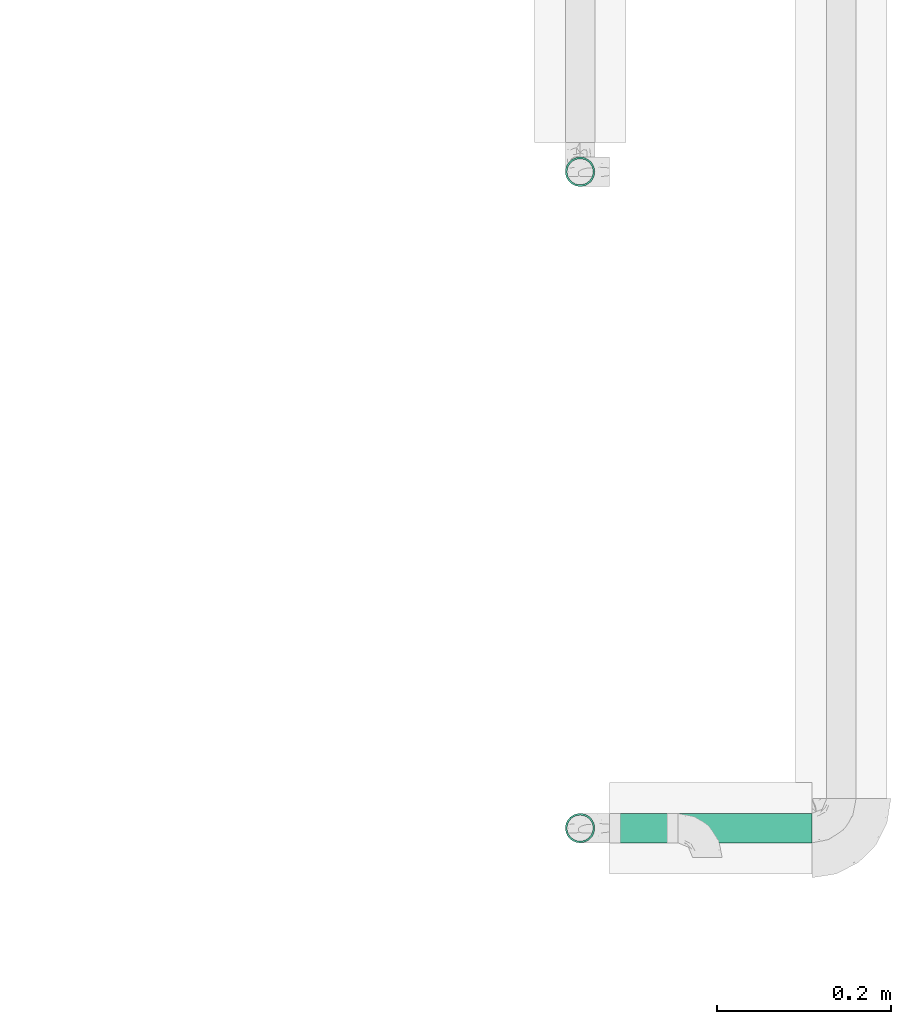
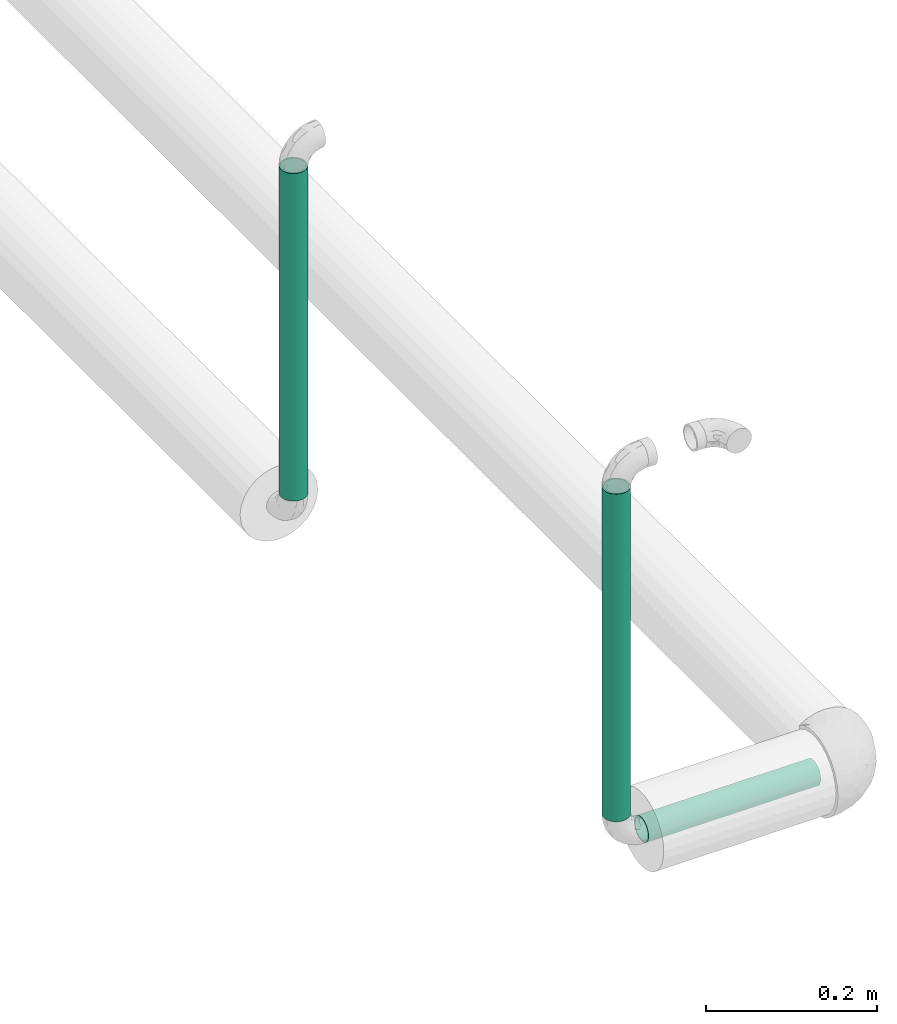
# One storey, part 7 of 17: 3 flow segments.
"""IFC2X3 building model written with IfcOpenShell, lengths in millimetres."""

from ifc_helpers import new_model, entity, si_unit, converted_unit, derived_unit, direction, frame, origin_with_axes, origin_2d_with_axis, place, context, subcontext, project, spatial, hollow_circle, extrude, source, transform, mapped, type_object, element, save


model = new_model("IFC2X3")

# Units and contexts
model_context = context("Model", 3, precision=0.01, world=frame((0.0, 4.29681676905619e-09, 0.0)), true_north=direction((4.01073788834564e-13, 1.0)))
plan_context = context("Plan", 3, precision=0.01, world=frame((0.0, 4.29681676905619e-09, 0.0)), true_north=direction((4.01073788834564e-13, 1.0)))
body_context = subcontext(model_context, "Body", "Model", "MODEL_VIEW")
ifc_project = project(units=[converted_unit("PLANEANGLEUNIT", "DEGREE", entity("IfcPositiveLengthMeasure", 0.0174532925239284), si_unit("PLANEANGLEUNIT", "RADIAN"), dimensions=[0, 0, 0, 0, 0, 0, 0]), si_unit("AREAUNIT", "SQUARE_METRE"), si_unit("LENGTHUNIT", "METRE", prefix="MILLI"), si_unit("MASSUNIT", "GRAM", prefix="KILO"), si_unit("POWERUNIT", "WATT"), si_unit("PRESSUREUNIT", "PASCAL", prefix="KILO"), si_unit("FORCEUNIT", "NEWTON", prefix="KILO"), si_unit("ELECTRICVOLTAGEUNIT", "VOLT"), si_unit("ELECTRICCURRENTUNIT", "AMPERE"), si_unit("THERMODYNAMICTEMPERATUREUNIT", "DEGREE_CELSIUS"), si_unit("TIMEUNIT", "SECOND"), si_unit("VOLUMEUNIT", "CUBIC_METRE"), derived_unit("LINEARVELOCITYUNIT", [(si_unit("LENGTHUNIT", "METRE"), 1), (si_unit("TIMEUNIT", "SECOND"), -1)]), derived_unit("VOLUMETRICFLOWRATEUNIT", [(si_unit("VOLUMEUNIT", "CUBIC_METRE"), 1), (si_unit("TIMEUNIT", "SECOND"), -1)]), derived_unit("THERMALTRANSMITTANCEUNIT", [(si_unit("POWERUNIT", "WATT"), 1), (si_unit("THERMODYNAMICTEMPERATUREUNIT", "KELVIN"), -1), (si_unit("AREAUNIT", "SQUARE_METRE"), -1)]), derived_unit("SOUNDPRESSUREUNIT", [(si_unit("PRESSUREUNIT", "PASCAL"), 1)])], contexts=[model_context, plan_context])

# Site, building, storey
site_placement = place(None, frame((0.0, -4.29681676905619e-09, 0.0), z_axis=(0.0, 0.0, 1.0), x_axis=(1.0, 0.0, 0.0)))
site = spatial("IfcSite", under=ifc_project, at=site_placement, Name="ENGM", CompositionType="ELEMENT")
building_placement = place(site_placement, frame((0.0, 4.29681676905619e-09, 0.0), z_axis=(0.0, 0.0, 1.0), x_axis=(1.0, 0.0, 0.0)))
building = spatial("IfcBuilding", under=site, at=building_placement, Name="TI", CompositionType="ELEMENT")
storey_placement = place(building_placement, frame((0.0, 0.0, 207370.0), z_axis=(0.0, 0.0, 1.0), x_axis=(1.0, 0.0, 0.0)))
storey = spatial("IfcBuildingStorey", under=building, at=storey_placement, Name="Nivå E", CompositionType="ELEMENT", Elevation=207370.0)

# Flow segments
pipe_segment_type = type_object("IfcPipeSegmentType", Name="Stålrør normaltykke", PredefinedType="RIGIDSEGMENT")
shared_shape_1 = source(origin_with_axes(), body_context, "Body", "SweptSolid", [
    extrude(hollow_circle(Radius=16.9, WallThickness=2.0, at=origin_2d_with_axis()), frame((0.0, 0.0, 0.0), z_axis=(1.0, 0.0, 0.0), x_axis=(0.0, 1.0, 0.0)), (0.0, 0.0, 1.0), 466.9),
])
for number, where, z_axis, x_axis in (
    (1, (598669.97776, 570723.24678, 2980.72527), (1.0, 0.0, 0.0), (0.0, 0.0, 1.0)),
    (2, (598669.97776, 571476.9411, 2980.71168000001), (0.0, -1.0, 0.0), (0.0, 0.0, 1.0)),
):
    element("IfcFlowSegment", number, at=place(storey_placement, frame(where, z_axis=z_axis, x_axis=x_axis)), inside=storey, type_object=pipe_segment_type, Name="Stålrør normaltykke", context=body_context, shape_type="MappedRepresentation", body=[
        mapped(shared_shape_1, transform((0.0, 0.0, 0.0), scale=1.0)),
    ])
shared_shape_2 = source(origin_with_axes(), body_context, "Body", "SweptSolid", [
    extrude(hollow_circle(Radius=16.9, WallThickness=2.0, at=origin_2d_with_axis()), frame((0.0, 0.0, 0.0), z_axis=(1.0, 0.0, 0.0), x_axis=(0.0, 1.0, 0.0)), (0.0, 0.0, 1.0), 232.4),
])
flow_segment_placement = place(storey_placement, frame((598936.16633, 570723.24678, 2946.92527000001), z_axis=(0.0, 0.0, 1.0), x_axis=(-1.0, 0.0, 0.0)))
element("IfcFlowSegment", 3, at=flow_segment_placement, inside=storey, type_object=pipe_segment_type, Name="Stålrør normaltykke", context=body_context, shape_type="MappedRepresentation", body=[
    mapped(shared_shape_2, transform((0.0, 0.0, 0.0), scale=1.0)),
])

save(model, "model.ifc")
